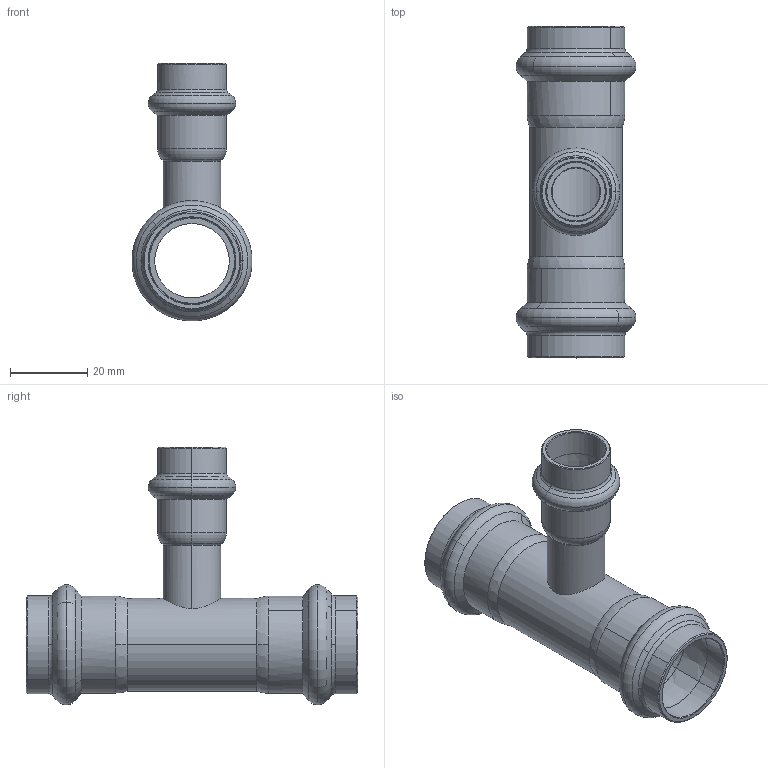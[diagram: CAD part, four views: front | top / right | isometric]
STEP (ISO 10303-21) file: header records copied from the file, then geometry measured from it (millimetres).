
FILE_DESCRIPTION(('CoCreate Modeling STEP Export'),'2;1');
FILE_NAME('8130RVW221522.stp','2013-01-31T14:36:43',(''),(''),'CoCreate Modeling STEP processor for AP214 (Solid Model)','CoCreate Modeling 17.00A 17-Jun-2010 (C) Parametric Technology GmbH','');
FILE_SCHEMA(('AUTOMOTIVE_DESIGN { 1 0 10303 214 1 1 1 1 }'));
Length unit declared in the file: millimetre
Products named in the file (1): 8130RVW221522
Bounding box: 31.08 x 86.01 x 66.73 mm (x, y, z)
Volume: 15259.9 mm3; surface area: 17786.7 mm2
Topology: 1 solids, 1 shells, 130 faces, 323 edges, 203 vertices
Faces by surface type: torus 42, cylinder 40, cone 36, plane 10, bspline 2
Entity records: 5193 total; most frequent: CARTESIAN_POINT 2636, ORIENTED_EDGE 646, DIRECTION 432, EDGE_CURVE 323, VERTEX_POINT 203, AXIS2_PLACEMENT_3D 178, EDGE_LOOP 142, FACE_OUTER_BOUND 130
